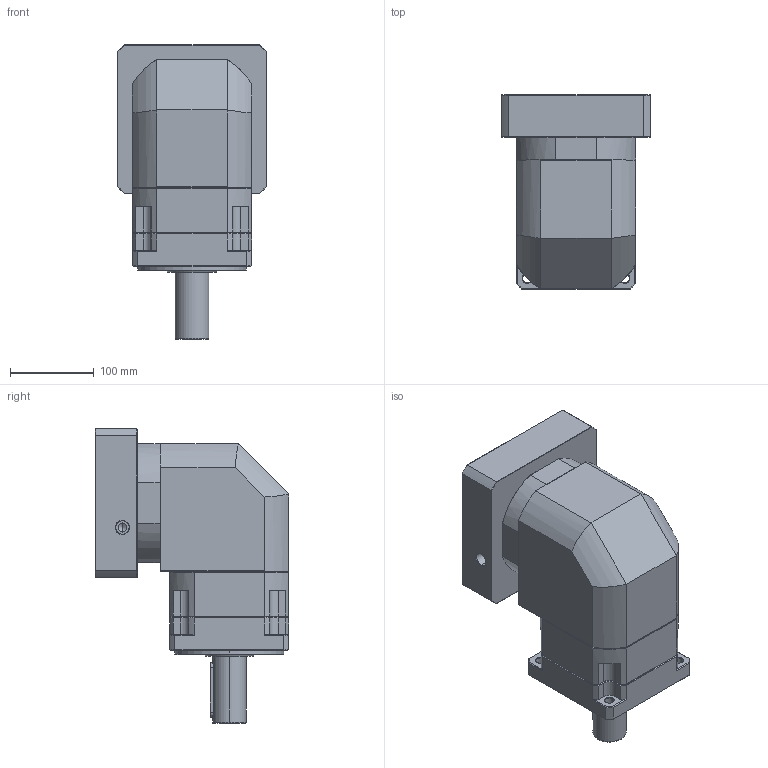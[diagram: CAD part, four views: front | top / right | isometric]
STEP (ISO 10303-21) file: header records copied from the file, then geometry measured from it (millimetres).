
FILE_DESCRIPTION (( 'STEP AP214' ), '1' );
FILE_NAME ('ZBR142A-D40-L1-P2-35-114.3-200-M12.step', '2023-09-02T07:11:32', ( '' ), ( '' ), 'SwSTEP 2.0', 'SolidWorks 2016', '' );
FILE_SCHEMA (( 'AUTOMOTIVE_DESIGN' ));
Length unit declared in the file: millimetre
Products named in the file (1): ZBR142A-D40-L1-P2-35-114.3-200-M12
Bounding box: 178 x 231 x 351.7 mm (x, y, z)
Volume: 5984220.9 mm3; surface area: 425987.7 mm2
Topology: 6 solids, 6 shells, 2298 faces, 6061 edges, 3870 vertices
Faces by surface type: plane 1120, cylinder 414, bspline 410, cone 332, torus 22
Entity records: 128733 total; most frequent: CARTESIAN_POINT 49981, ORIENTED_EDGE 12062, DIRECTION 9528, EDGE_CURVE 6031, VECTOR 3898, LINE 3898, VERTEX_POINT 3870, AXIS2_PLACEMENT_3D 2815
